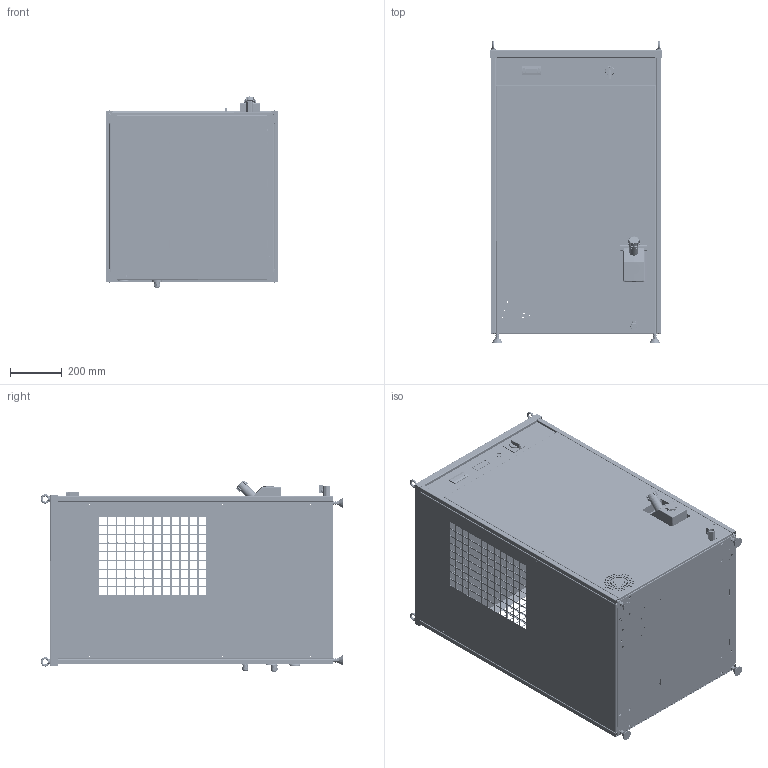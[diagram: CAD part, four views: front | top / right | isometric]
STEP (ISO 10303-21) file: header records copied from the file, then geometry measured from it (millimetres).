
FILE_DESCRIPTION (( 'STEP AP214' ), '1' );
FILE_NAME ('50-3C-00001.STEP', '2018-12-11T10:33:50', ( 'Utente' ), ( 'Microsoft' ), 'SwSTEP 2.0', 'SolidWorks 2013', '' );
FILE_SCHEMA (( 'AUTOMOTIVE_DESIGN' ));
Length unit declared in the file: millimetre
Products named in the file (39): CR-3C-00009_000; SE-RP-00041_CORPO; CR-3C-00021_001; ST-AT-00020_003; THREADED INSERT CYLINDRICAL HEAD M10; pg11_Cable-Gland-1.209.1102.15-Nelco; Rivelox M5 Reduced Head Hexagonal Shank._; pg11 part2_Nut-PA-Blue-22-22-25-Nelco; pg11 part1_Socket-1.209.1102.15-Nelco; PG 13.5_Cable-Gland-1.209.1300.14-Nelco; VR-3C-00008_004; PG 13.5_1_Socket-1.209.1300.14-Nelco; VR-3C-00007_003; PG 13.5_2_Nut-PA-Grey-24-24-27-Nelco; VR-3C-00004_002; TA-RG-00041; RIVELOX M5; SELETTORE_PICCOLO; RIVELOX M8; TE-EL-00007 - EW_971_230V; GOLFARE M8; VR-3C-00003_000; MA-N1-00001_MANOMETRO ACQUA 40mm 0-12 BAR; VR-3C-00002_000; VR-3C-00005_000; AN-PI-00014_ANTIVIBRANTI MM PIEDE 40X20h M10; VA-A5-00001; CR-3C-00019_000; TAPPO 1P  FEM ; VR-3C-00001_000; VR-3C-00034_001; IN-VI-00001; SE-RP-00041_000; 50-3C-00001; INSERTO ESAG  1G
Assembly tree (75 placements, depth 3):
  50-3C-00001
    VR-3C-00001_000
    CR-3C-00019_000
    VR-3C-00005_000
    VR-3C-00002_000
    VR-3C-00003_000
    VR-3C-00004_002
      VR-3C-00004_002
      RIVELOX M8  x2
      RIVELOX M5  x6
    VR-3C-00007_003
    VR-3C-00008_004
    CR-3C-00021_001
      CR-3C-00021_001
      Rivelox M5 Reduced Head Hexagonal Shank._  x7
      THREADED INSERT CYLINDRICAL HEAD M10  x4
    CR-3C-00009_000
      CR-3C-00009_000
      Rivelox M5 Reduced Head Hexagonal Shank._  x7
    VR-3C-00034_001
      VR-3C-00034_001
      RIVELOX M5  x8
    AN-PI-00014_ANTIVIBRANTI MM PIEDE 40X20h M10  x4
    MA-N1-00001_MANOMETRO ACQUA 40mm 0-12 BAR
    GOLFARE M8  x4
    TE-EL-00007 - EW_971_230V
    SELETTORE_PICCOLO
    TA-RG-00041
    PG 13.5_Cable-Gland-1.209.1300.14-Nelco
      PG 13.5_2_Nut-PA-Grey-24-24-27-Nelco
      PG 13.5_1_Socket-1.209.1300.14-Nelco
    pg11_Cable-Gland-1.209.1102.15-Nelco
      pg11 part1_Socket-1.209.1102.15-Nelco
      pg11 part2_Nut-PA-Blue-22-22-25-Nelco
    ST-AT-00020_003  x2
    SE-RP-00041_000
      SE-RP-00041_CORPO
      INSERTO ESAG  1G
    IN-VI-00001
    TAPPO 1P  FEM 
    VA-A5-00001
Bounding box: 671 x 1174.2 x 741.27 mm (x, y, z)
Volume: 10698469.9 mm3; surface area: 12056937.8 mm2
Topology: 141 solids, 141 shells, 8733 faces, 23813 edges, 15404 vertices
Faces by surface type: plane 4498, cylinder 3275, bspline 442, cone 341, torus 133, sphere 44
Entity records: 287339 total; most frequent: CARTESIAN_POINT 66639, ORIENTED_EDGE 44150, DIRECTION 42323, EDGE_CURVE 22075, VERTEX_POINT 14332, VECTOR 14273, LINE 14273, AXIS2_PLACEMENT_3D 14025
